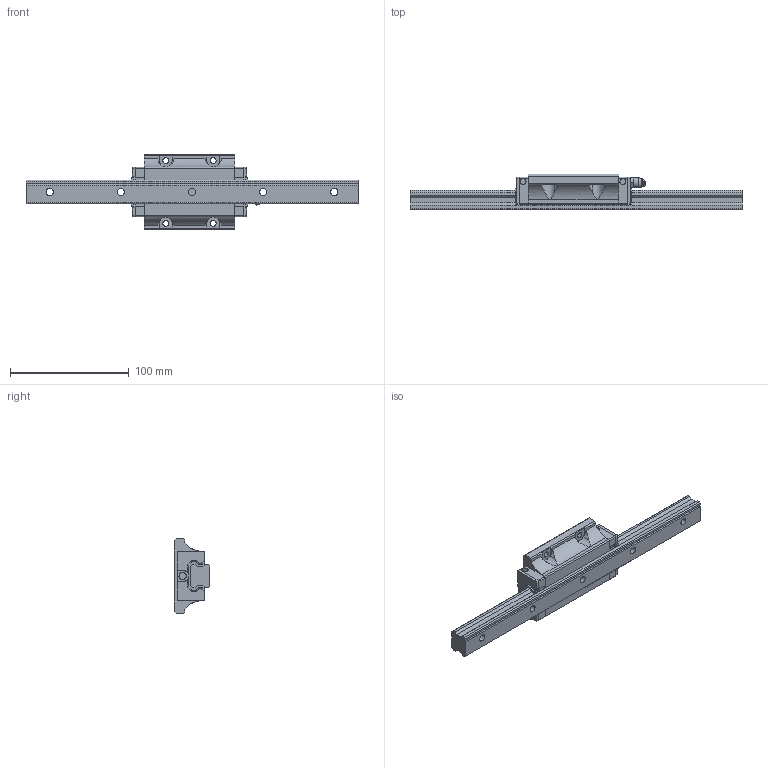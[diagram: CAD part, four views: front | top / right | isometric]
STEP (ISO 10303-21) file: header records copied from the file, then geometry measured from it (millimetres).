
FILE_DESCRIPTION (( 'STEP AP214' ), '1' );
FILE_NAME ('EGH20FL.STEP', '2021-06-25T08:24:23', ( '' ), ( '' ), 'SwSTEP 2.0', 'SolidWorks 2019', '' );
FILE_SCHEMA (( 'AUTOMOTIVE_DESIGN' ));
Length unit declared in the file: millimetre
Products named in the file (4): M6グリースニップル; EGH20FL; EG20レール; EGH20FLキャリッジ
Assembly tree (3 placements, depth 2):
  EGH20FL
    EG20レール
    EGH20FLキャリッジ
    M6グリースニップル
Bounding box: 280 x 30 x 63 mm (x, y, z)
Volume: 175411 mm3; surface area: 50686.8 mm2
Topology: 7 solids, 7 shells, 527 faces, 1485 edges, 983 vertices
Faces by surface type: plane 346, cylinder 157, cone 20, torus 3, sphere 1
Full cylindrical faces by diameter (mm): 6 x6, 7.75 x1, 8 x1, 9.5 x5
Entity records: 22672 total; most frequent: CARTESIAN_POINT 3330, ORIENTED_EDGE 2924, DIRECTION 2844, EDGE_CURVE 1462, VECTOR 1096, LINE 1096, VERTEX_POINT 979, AXIS2_PLACEMENT_3D 874
